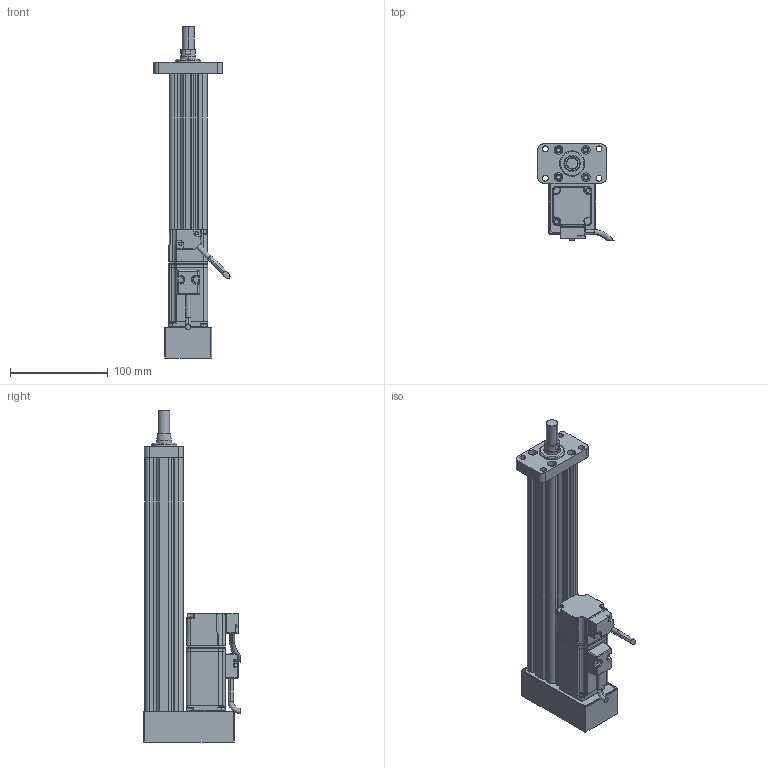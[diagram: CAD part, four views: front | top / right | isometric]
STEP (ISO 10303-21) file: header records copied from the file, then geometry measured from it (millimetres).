
FILE_DESCRIPTION (( 'STEP AP214' ), '1' );
FILE_NAME ('039-S200-D02-B-M3-C1-2.STEP', '2021-02-25T08:41:33', ( '' ), ( '' ), 'SwSTEP 2.0', 'SolidWorks 2018', '' );
FILE_SCHEMA (( 'AUTOMOTIVE_DESIGN' ));
Length unit declared in the file: millimetre
Products named in the file (7): CMC039-XT; CMC039-LJB; CMC039-FL; 039-S200-D02-B-M3-C1-2; CMC039-DT; ECMA-CX0401ES-40框號系列機種-100W低慣量系列; CMC039-GT
Assembly tree (6 placements, depth 2):
  039-S200-D02-B-M3-C1-2
    CMC039-GT
    CMC039-LJB
    CMC039-XT
    CMC039-FL
    CMC039-DT
    ECMA-CX0401ES-40框號系列機種-100W低慣量系列
Bounding box: 77.83 x 99.39 x 340 mm (x, y, z)
Volume: 477664.3 mm3; surface area: 164226.6 mm2
Topology: 6 solids, 14 shells, 615 faces, 1596 edges, 991 vertices
Faces by surface type: cylinder 250, plane 240, bspline 84, cone 41
Entity records: 24778 total; most frequent: CARTESIAN_POINT 10693, ORIENTED_EDGE 3126, DIRECTION 2457, EDGE_CURVE 1563, VERTEX_POINT 991, AXIS2_PLACEMENT_3D 842, LINE 773, VECTOR 773
